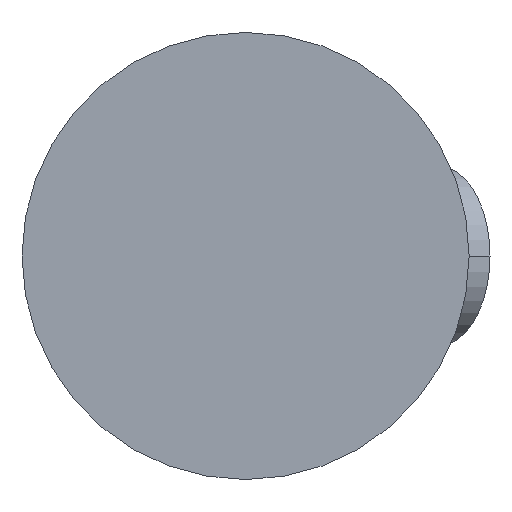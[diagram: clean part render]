
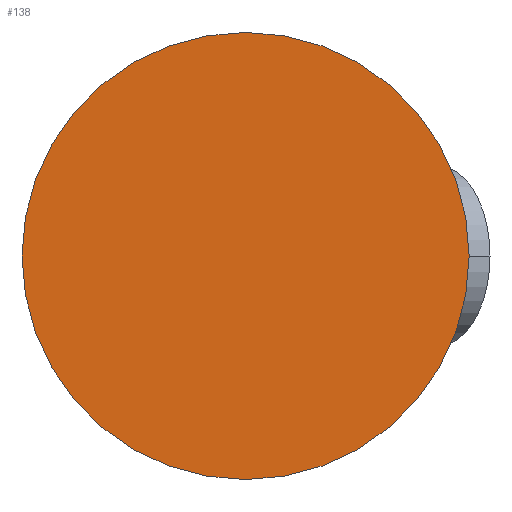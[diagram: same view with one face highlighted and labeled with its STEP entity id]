
A CAD part, left-side view. The second image highlights one B-rep face of the part: STEP entity #138.
In plain terms, the highlighted planar face has unit normal (-1, 0, 0).
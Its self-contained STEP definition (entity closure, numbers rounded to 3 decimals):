
#15 = VERTEX_POINT ( 'NONE', #415 ) ;
#138 = ADVANCED_FACE ( 'NONE', ( #516 ), #315, .F. ) ;
#167 = CARTESIAN_POINT ( 'NONE',  ( -6., 0., -30. ) ) ;
#180 = CIRCLE ( 'NONE', #268, 30. ) ;
#197 = DIRECTION ( 'NONE',  ( 1., 0., 0. ) ) ;
#212 = CARTESIAN_POINT ( 'NONE',  ( -6., 0., 0. ) ) ;
#216 = AXIS2_PLACEMENT_3D ( 'NONE', #212, #578, #625 ) ;
#236 = ORIENTED_EDGE ( 'NONE', *, *, #363, .F. ) ;
#268 = AXIS2_PLACEMENT_3D ( 'NONE', #511, #343, #356 ) ;
#315 = PLANE ( 'NONE',  #216 ) ;
#343 = DIRECTION ( 'NONE',  ( 1., 0., 0. ) ) ;
#356 = DIRECTION ( 'NONE',  ( 0., 0., -1. ) ) ;
#363 = EDGE_CURVE ( 'NONE', #15, #429, #532, .T. ) ;
#406 = DIRECTION ( 'NONE',  ( 0., 0., -1. ) ) ;
#415 = CARTESIAN_POINT ( 'NONE',  ( -6., 0., 30. ) ) ;
#422 = AXIS2_PLACEMENT_3D ( 'NONE', #666, #197, #406 ) ;
#429 = VERTEX_POINT ( 'NONE', #167 ) ;
#441 = ORIENTED_EDGE ( 'NONE', *, *, #559, .F. ) ;
#511 = CARTESIAN_POINT ( 'NONE',  ( -6., 0., 0. ) ) ;
#516 = FACE_OUTER_BOUND ( 'NONE', #646, .T. ) ;
#532 = CIRCLE ( 'NONE', #422, 30. ) ;
#559 = EDGE_CURVE ( 'NONE', #429, #15, #180, .T. ) ;
#578 = DIRECTION ( 'NONE',  ( 1., 0., 0. ) ) ;
#625 = DIRECTION ( 'NONE',  ( 0., 0., -1. ) ) ;
#646 = EDGE_LOOP ( 'NONE', ( #441, #236 ) ) ;
#666 = CARTESIAN_POINT ( 'NONE',  ( -6., 0., 0. ) ) ;
